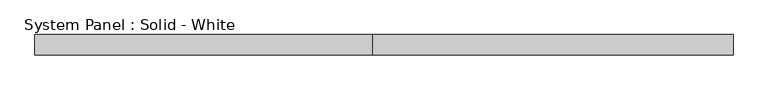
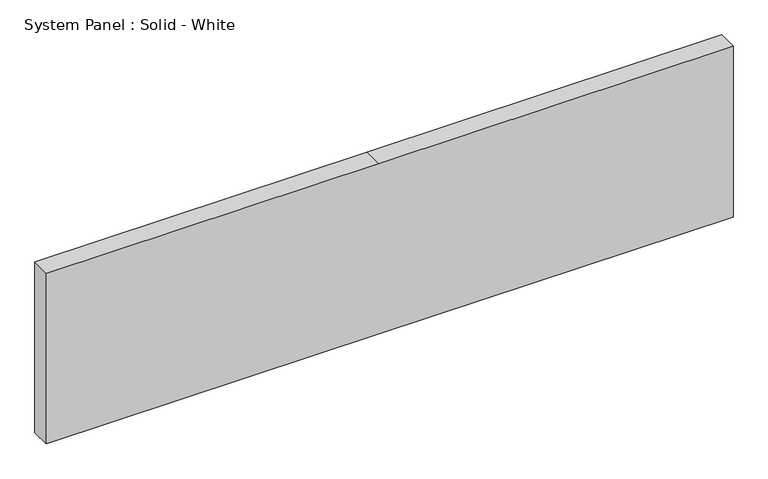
"""IFC4 building model written with IfcOpenShell, lengths in millimetres: plate geometry, System Panel : Solid - White."""

from ifc_helpers import new_model, si_unit, frame, origin, place, context, project, spatial, polyline, outline, extrude, source, transform, mapped, element, save


def system_panel_solid_white_8c86d5e4(model_context):
    return source(origin(), model_context, "Body", "SweptSolid", [
        extrude(outline(polyline([(0.0, -1099.185), (0.0, -34.925), (0.0, 1099.185), (577.85, 1099.185), (577.85, -34.925), (577.85, -1099.185), (0.0, -1099.185)])), frame((0.0, -19.05, 0.0), z_axis=(0.0, 1.0, 0.0), x_axis=(0.0, 0.0, 1.0)), (0.0, 0.0, 1.0), 63.5),
    ])


if __name__ == "__main__":
    model = new_model("IFC4")
    model_context = context("Model", 3, world=origin())
    ifc_project = project(units=[si_unit("LENGTHUNIT", "METRE", prefix="MILLI")], contexts=[model_context])
    site = spatial("IfcSite", under=ifc_project)
    building = spatial("IfcBuilding", under=site)
    placement = place(None, origin())
    system_panel_solid_white_shape = system_panel_solid_white_8c86d5e4(model_context)
    element("IfcPlate", 1, ObjectType="System Panel : Solid - White", at=placement, inside=building, context=model_context, shape_type="MappedRepresentation", body=[
        mapped(system_panel_solid_white_shape, transform((0.0, 0.0, 0.0), x_axis=(1.0, 0.0, 0.0), y_axis=(0.0, 1.0, 0.0), z_axis=(0.0, 0.0, 1.0))),
    ])
    save(model, "model.ifc")
